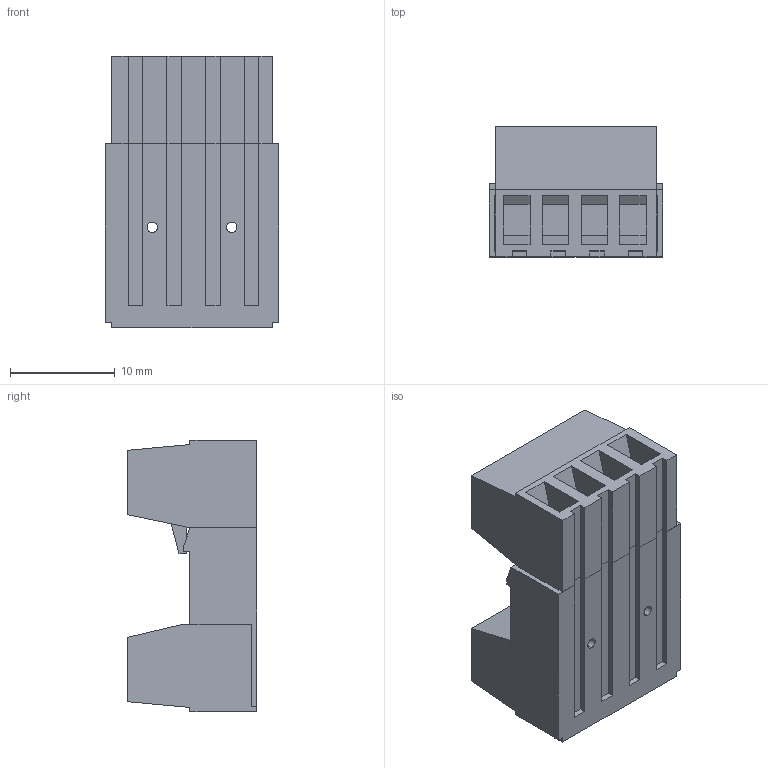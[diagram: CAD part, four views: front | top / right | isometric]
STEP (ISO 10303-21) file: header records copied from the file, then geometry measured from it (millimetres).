
FILE_DESCRIPTION (( 'STEP AP203' ), '1' );
FILE_NAME ('4_PIN SOCKET-ASSEMBLY.STEP', '2024-09-26T14:59:36', ( '' ), ( '' ), 'SwSTEP 2.0', 'SolidWorks 2022', '' );
FILE_SCHEMA (( 'CONFIG_CONTROL_DESIGN' ));
Length unit declared in the file: millimetre
Products named in the file (3): 4_PIN SOCKET-F; 4_PIN SOCKET-M; 4_PIN SOCKET-ASSEMBLY
Assembly tree (2 placements, depth 2):
  4_PIN SOCKET-ASSEMBLY
    4_PIN SOCKET-F
    4_PIN SOCKET-M
Bounding box: 16.6 x 12.4 x 25.95 mm (x, y, z)
Volume: 3591.6 mm3; surface area: 3364.2 mm2
Topology: 2 solids, 2 shells, 301 faces, 731 edges, 484 vertices
Faces by surface type: plane 241, cylinder 52, cone 8
Entity records: 9030 total; most frequent: CARTESIAN_POINT 1521, ORIENTED_EDGE 1462, DIRECTION 1455, EDGE_CURVE 731, VECTOR 619, LINE 619, VERTEX_POINT 484, AXIS2_PLACEMENT_3D 418
